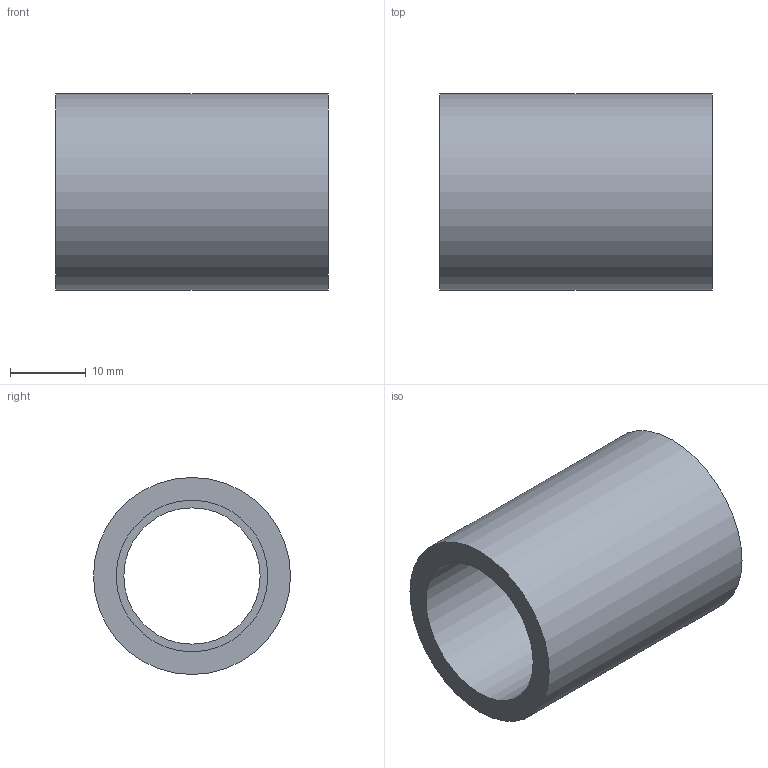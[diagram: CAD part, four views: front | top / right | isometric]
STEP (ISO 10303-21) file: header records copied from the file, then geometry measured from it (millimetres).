
FILE_DESCRIPTION(/* description */ ('PVC manicotti metrici incollaggio'),/* implementation_level */ '2;1');
FILE_NAME(/* name */ 'C:\Users\POLYPIPE\Desktop\DATASET INVENTOR\LIBRERIA EFFAST\RACCORDI 3DxWEB\RDR\3D_RDRMAD\3D_RDRMAD0200.stp',/* time_stamp */ '2018-01-19T14:38:14+01:00',/* author */ ('POLYPIPE'),/* organization */ ('Polypipe Italia s.r.l.'),/* preprocessor_version */ 'ST-DEVELOPER v16.1',/* originating_system */ 'Autodesk Inventor 2016',/* authorisation */ '');
FILE_SCHEMA (('CONFIG_CONTROL_DESIGN'));
Length unit declared in the file: millimetre
Products named in the file (1): 3D_RDRMAD
Bounding box: 36 x 26 x 26 mm (x, y, z)
Volume: 8042.5 mm3; surface area: 5730.3 mm2
Topology: 1 solids, 1 shells, 8 faces, 12 edges, 8 vertices
Faces by surface type: cylinder 4, plane 4
Full cylindrical faces by diameter (mm): 18 x1, 20 x2, 26 x1
Entity records: 192 total; most frequent: DIRECTION 34, CARTESIAN_POINT 25, AXIS2_PLACEMENT_3D 17, EDGE_LOOP 16, ORIENTED_EDGE 16, FACE_BOUND 8, FACE_OUTER_BOUND 8, CIRCLE 8
